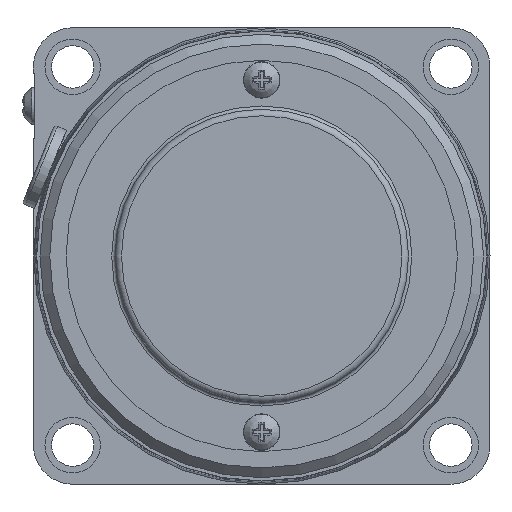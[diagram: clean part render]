
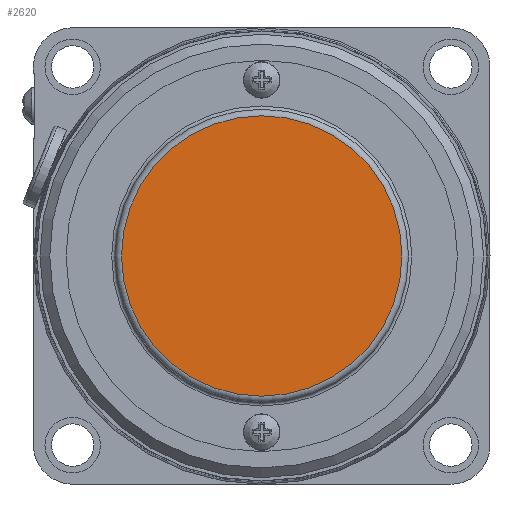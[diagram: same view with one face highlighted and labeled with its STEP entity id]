
A CAD part, left-side view. The second image highlights one B-rep face of the part: STEP entity #2620.
In plain terms, the highlighted planar face has unit normal (-1, 0, 0).
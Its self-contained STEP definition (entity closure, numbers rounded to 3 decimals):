
#197=CIRCLE('',#2797,21.5);
#330=FACE_OUTER_BOUND('',#497,.T.);
#497=EDGE_LOOP('',(#1776));
#1105=VERTEX_POINT('',#3993);
#1373=EDGE_CURVE('',#1105,#1105,#197,.T.);
#1776=ORIENTED_EDGE('',*,*,#1373,.F.);
#2368=PLANE('',#2796);
#2620=ADVANCED_FACE('',(#330),#2368,.T.);
#2796=AXIS2_PLACEMENT_3D('',#3992,#3140,#3141);
#2797=AXIS2_PLACEMENT_3D('',#3994,#3142,#3143);
#3140=DIRECTION('center_axis',(-1.,0.,0.));
#3141=DIRECTION('ref_axis',(0.,1.,0.));
#3142=DIRECTION('center_axis',(1.,0.,0.));
#3143=DIRECTION('ref_axis',(0.,0.,
-1.));
#3992=CARTESIAN_POINT('Origin',(-4.3,0.,
-10.75));
#3993=CARTESIAN_POINT('',(-4.3,0.,-21.5));
#3994=CARTESIAN_POINT('Origin',(-4.3,0.,
0.));
